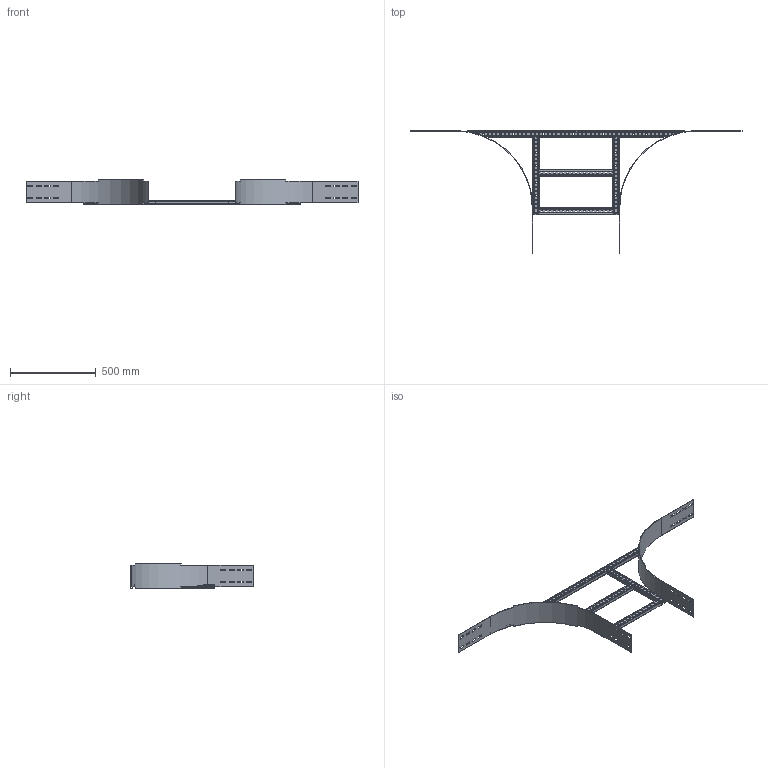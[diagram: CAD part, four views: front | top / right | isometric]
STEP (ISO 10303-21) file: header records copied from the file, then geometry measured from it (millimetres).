
FILE_DESCRIPTION(('Creo Elements/Direct Modeling STEP Export'),'2;1');
FILE_NAME('WPBP15-50-45.stp','2016-06-03T11:45:17',(''),(''),'PTC Creo Elements/Direct Modeling STEP processor for AP214 (Solid Model)','PTC Creo Elements/Direct Modeling 19.0C 15-Aug-2015 (C) Parametric Technology GmbH','');
FILE_SCHEMA(('AUTOMOTIVE_DESIGN { 1 0 10303 214 1 1 1 1 }'));
Length unit declared in the file: millimetre
Products named in the file (5): WPAAIG_150-450.1; WPAASP2; WPKS50.1; WPAASP1_50; WPBP15-50-45
Assembly tree (7 placements, depth 2):
  WPBP15-50-45
    WPAASP1_50
    WPAASP2  x2
    WPKS50.1  x2
    WPAAIG_150-450.1  x2
Bounding box: 1935 x 715 x 145 mm (x, y, z)
Volume: 1369398.2 mm3; surface area: 1239109.1 mm2
Topology: 7 solids, 7 shells, 845 faces, 2493 edges, 1662 vertices
Faces by surface type: plane 513, cylinder 332
Entity records: 18602 total; most frequent: ORIENTED_EDGE 3210, CARTESIAN_POINT 3196, DIRECTION 3121, EDGE_CURVE 1605, VECTOR 1131, LINE 1131, VERTEX_POINT 1070, AXIS2_PLACEMENT_3D 995
